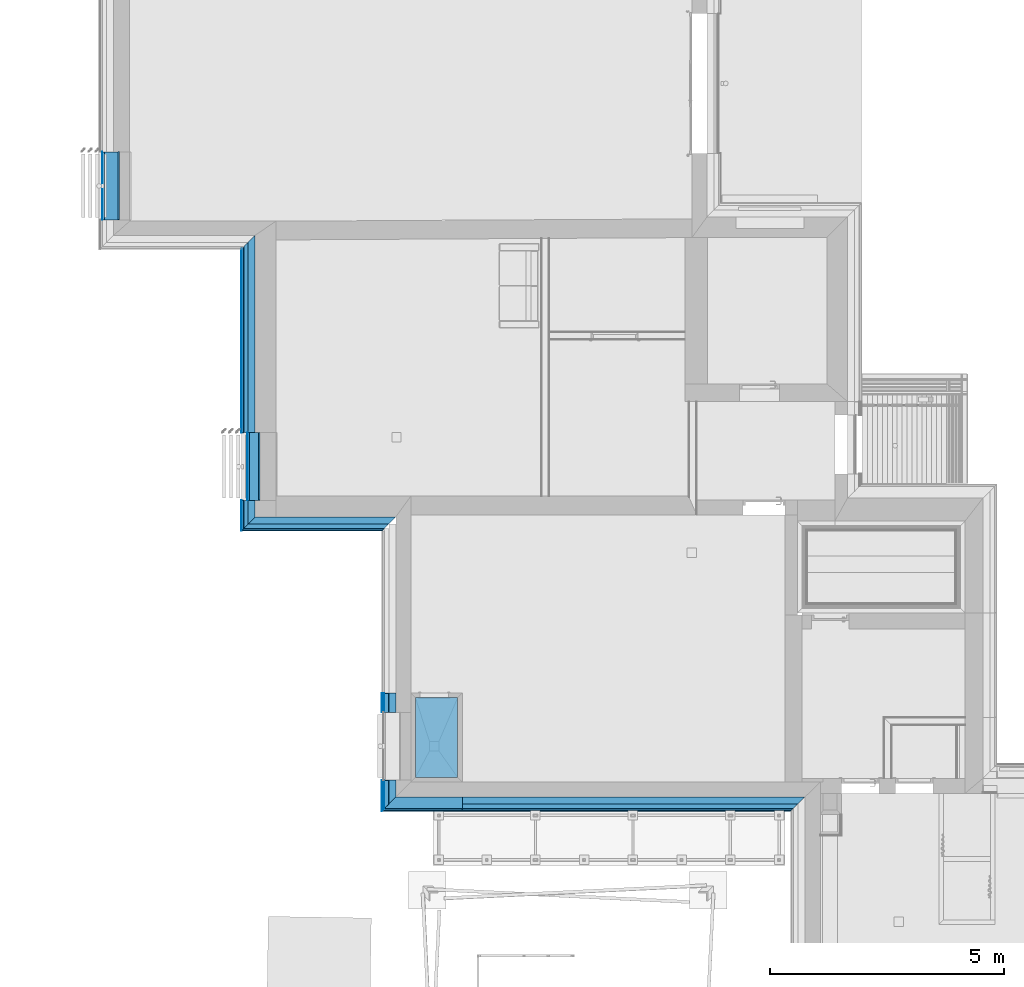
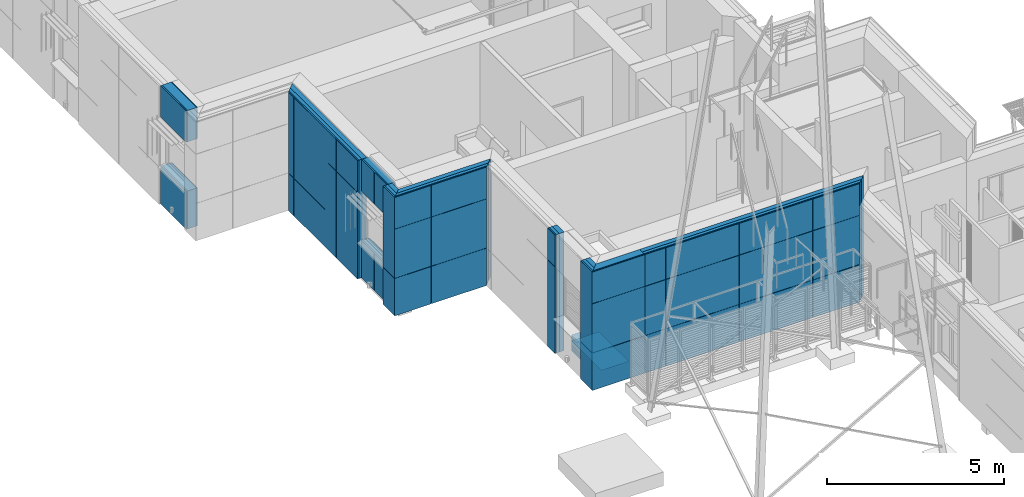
# One storey, part 32 of 418: 32 building element parts, 29 openings, 8 elements without a shape of their own.
"""IFC2X3 building model written with IfcOpenShell, lengths in millimetres."""

from ifc_helpers import new_model, entity, si_unit, converted_unit, derived_unit, money_unit, direction, frame, origin_with_axes, origin_2d_with_axis, place, context, subcontext, project, spatial, polyline, rectangle, outline, extrude, material, type_object, element, aggregate, save


model = new_model("IFC2X3")

# Units and contexts
model_context = context("Model", 3, precision=0.01, world=origin_with_axes(), true_north=direction((0.0, 1.0)))
body_context = subcontext(model_context, "Body", "Model", "MODEL_VIEW")
ifc_project = project(units=[si_unit("LENGTHUNIT", "METRE", prefix="MILLI"), si_unit("AREAUNIT", "SQUARE_METRE"), si_unit("VOLUMEUNIT", "CUBIC_METRE"), converted_unit("PLANEANGLEUNIT", "DEGREE", entity("IfcPlaneAngleMeasure", 0.0174532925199), si_unit("PLANEANGLEUNIT", "RADIAN"), dimensions=[0, 0, 0, 0, 0, 0, 0]), si_unit("SOLIDANGLEUNIT", "STERADIAN"), money_unit("EUR"), converted_unit("TIMEUNIT", "Year", entity("IfcTimeMeasure", 31556926.0), si_unit("TIMEUNIT", "SECOND"), dimensions=[0, 0, 1, 0, 0, 0, 0]), si_unit("MASSUNIT", "GRAM", prefix="KILO"), si_unit("THERMODYNAMICTEMPERATUREUNIT", "DEGREE_CELSIUS"), si_unit("LUMINOUSINTENSITYUNIT", "LUMEN"), si_unit("ENERGYUNIT", "JOULE", prefix="MEGA"), derived_unit("THERMALCONDUCTANCEUNIT", [(si_unit("POWERUNIT", "WATT"), 1), (si_unit("LENGTHUNIT", "METRE"), -1), (si_unit("THERMODYNAMICTEMPERATUREUNIT", "KELVIN"), -1)]), derived_unit("SPECIFICHEATCAPACITYUNIT", [(si_unit("ENERGYUNIT", "JOULE"), 1), (si_unit("MASSUNIT", "GRAM", prefix="KILO"), -1), (si_unit("THERMODYNAMICTEMPERATUREUNIT", "KELVIN"), -1)]), derived_unit("MASSDENSITYUNIT", [(si_unit("MASSUNIT", "GRAM", prefix="KILO"), 1), (si_unit("VOLUMEUNIT", "CUBIC_METRE"), -1)])], contexts=[model_context])

# Site, building, storey
site_placement = place(None, origin_with_axes())
site = spatial("IfcSite", under=ifc_project, at=site_placement, Name="Paldiski mnt 245/1, Tallinn, Harjumaa", CompositionType="COMPLEX")
building_placement = place(site_placement, origin_with_axes())
building = spatial("IfcBuilding", under=site, at=building_placement, Name="RKAS Hoone üldnimetus (kasutust iseloomustav) -> IFC Project Manager -> SOLIBRI", CompositionType="ELEMENT")
storey_placement = place(building_placement, origin_with_axes())
storey = spatial("IfcBuildingStorey", under=building, at=storey_placement, Name="Esimene korrus", CompositionType="ELEMENT", Elevation=0.0)

# Wall, openings, building element parts
wall_type_1 = type_object("IfcWallType", Name="VS-05D_uued_kihid 370", PredefinedType="NOTDEFINED")
wall_1_placement = place(storey_placement, frame((-62610.0, 13579.8287244, 0.0), z_axis=(0.0, 0.0, 1.0), x_axis=(0.0, -1.0, 0.0)))
wall_1 = element("IfcWall", 1, at=wall_1_placement, inside=storey, type_object=wall_type_1, Name="VS-05")
opening_1_placement = place(wall_1_placement, frame((725.0, 0.0, 1310.0), z_axis=(0.0, 0.0, 1.0), x_axis=(1.0, 0.0, 0.0)))
element("IfcOpeningElement", 2, at=opening_1_placement, cuts=wall_1, Name="A-06", context=body_context, shape_type="SweptSolid", body=[
    extrude(rectangle(XDim=1450.0, YDim=1700.0, at=origin_2d_with_axis()), frame((0.0, -220.0, 850.0), z_axis=(0.0, 1.0, 0.0), x_axis=(-1.0, 0.0, 0.0)), (0.0, 0.0, 1.0), 590.0),
    extrude(rectangle(XDim=1450.0, YDim=1700.0, at=origin_2d_with_axis()), frame((0.0, -220.0, 850.0), z_axis=(0.0, -1.0, 0.0), x_axis=(-1.0, 0.0, 0.0)), (0.0, 0.0, 1.0), 520.0),
    extrude(rectangle(XDim=1450.0, YDim=1700.0, at=origin_2d_with_axis()), frame((0.0, 0.0, 850.0), z_axis=(0.0, 1.0, 0.0), x_axis=(-1.0, 0.0, 0.0)), (0.0, 0.0, 1.0), 520.0),
])
opening_2_placement = place(wall_1_placement, frame((725.0, 0.0, 0.0), z_axis=(0.0, 0.0, 1.0), x_axis=(1.0, 0.0, 0.0)))
element("IfcOpeningElement", 3, at=opening_2_placement, cuts=wall_1, Name="Cembrit fassaadiplaadi vuuk", context=body_context, shape_type="SweptSolid", body=[
    extrude(outline(polyline([(-4.00000000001, 0.0), (3.99999999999, 0.0), (3.99999999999, 4090.0), (-4.00000000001, 4090.0), (-4.00000000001, 0.0)])), frame((0.0, -362.0, 0.0), z_axis=(0.0, -1.0, 0.0), x_axis=(1.0, 0.0, 0.0)), (0.0, 0.0, 1.0), 378.0),
])
ifc_material_1 = material(Name="Cembrit_C060")
building_element_part_1_placement = place(wall_1_placement, origin_with_axes())
building_element_part_1 = element("IfcBuildingElementPart", 4, at=building_element_part_1_placement, material=ifc_material_1, Name="Cembrit_C060", context=body_context, shape_type="SweptSolid", body=[
    extrude(outline(polyline([(0.0, -370.0), (1450.0, -370.0), (1450.0, -362.0), (0.0, -362.0), (0.0, -370.0)])), origin_with_axes(), (0.0, 0.0, 1.0), 4090.0),
])
ifc_material_2 = material(Name="VKR-06_Õhkvahe")
building_element_part_2_placement = place(wall_1_placement, origin_with_axes())
building_element_part_2 = element("IfcBuildingElementPart", 5, at=building_element_part_2_placement, material=ifc_material_2, Name="VKR-06_Õhkvahe", context=body_context, shape_type="SweptSolid", body=[
    extrude(outline(polyline([(0.0, -362.0), (1450.0, -362.0), (1450.0, -320.0), (0.0, -320.0), (0.0, -362.0)])), origin_with_axes(), (0.0, 0.0, 1.0), 4090.0),
])
ifc_material_3 = material(Name="Kingspan Kooltherm")
building_element_part_3_placement = place(wall_1_placement, origin_with_axes())
building_element_part_3 = element("IfcBuildingElementPart", 6, at=building_element_part_3_placement, material=ifc_material_3, Name="Kingspan Kooltherm", context=body_context, shape_type="SweptSolid", body=[
    extrude(outline(polyline([(0.0, -320.0), (1450.0, -320.0), (1450.0, -20.0), (0.0, -20.0), (0.0, -320.0)])), origin_with_axes(), (0.0, 0.0, 1.0), 4090.0),
])
ifc_material_4 = material(Name="Tasanduskrohv")
building_element_part_4_placement = place(wall_1_placement, origin_with_axes())
building_element_part_4 = element("IfcBuildingElementPart", 7, at=building_element_part_4_placement, material=ifc_material_4, Name="Tasanduskrohv", context=body_context, shape_type="SweptSolid", body=[
    extrude(outline(polyline([(0.0, -20.0), (1450.0, -20.0), (1450.0, 0.0), (0.0, 0.0), (0.0, -20.0)])), origin_with_axes(), (0.0, 0.0, 1.0), 4090.0),
])
aggregate(wall_1, [building_element_part_1, building_element_part_2, building_element_part_3, building_element_part_4])

wall_type_2 = type_object("IfcWallType", Name="VS-05B_uued_kihid 270", PredefinedType="NOTDEFINED")
wall_2_placement = place(storey_placement, frame((-59610.9999232, 7590.01138104, 0.0), z_axis=(0.0, 0.0, 1.0), x_axis=(0.0, -1.0, 0.0)))
wall_2 = element("IfcWall", 8, at=wall_2_placement, inside=storey, type_object=wall_type_2, Name="VS-05")
opening_3_placement = place(wall_2_placement, frame((725.0, 0.0, 1290.0), z_axis=(0.0, 0.0, 1.0), x_axis=(1.0, 0.0, 0.0)))
element("IfcOpeningElement", 9, at=opening_3_placement, cuts=wall_2, Name="A-06", context=body_context, shape_type="SweptSolid", body=[
    extrude(rectangle(XDim=1450.0, YDim=1700.0, at=origin_2d_with_axis()), frame((0.0, -185.0, 850.0), z_axis=(0.0, 1.0, 0.0), x_axis=(-1.0, 0.0, 0.0)), (0.0, 0.0, 1.0), 455.0),
    extrude(rectangle(XDim=1450.0, YDim=1700.0, at=origin_2d_with_axis()), frame((0.0, -185.0, 850.0), z_axis=(0.0, -1.0, 0.0), x_axis=(-1.0, 0.0, 0.0)), (0.0, 0.0, 1.0), 355.0),
    extrude(rectangle(XDim=1450.0, YDim=1700.0, at=origin_2d_with_axis()), frame((0.0, 0.0, 850.0), z_axis=(0.0, 1.0, 0.0), x_axis=(-1.0, 0.0, 0.0)), (0.0, 0.0, 1.0), 355.0),
    extrude(rectangle(XDim=1450.0, YDim=1708.0, at=origin_2d_with_axis()), frame((0.0, -270.0, 846.0), z_axis=(0.0, -1.0, 0.0), x_axis=(-1.0, 0.0, 0.0)), (0.0, 0.0, 1.0), 355.0),
])
opening_4_placement = place(wall_2_placement, frame((725.0, 0.0, 0.0), z_axis=(0.0, 0.0, 1.0), x_axis=(1.0, 0.0, 0.0)))
element("IfcOpeningElement", 10, at=opening_4_placement, cuts=wall_2, Name="Cembrit fassaadiplaadi vuuk", context=body_context, shape_type="SweptSolid", body=[
    extrude(outline(polyline([(-4.0, 0.0), (4.0, 0.0), (4.0, 4090.0), (-4.0, 4090.0), (-4.0, 0.0)])), frame((0.0, -262.0, 0.0), z_axis=(0.0, -1.0, 0.0), x_axis=(1.0, 0.0, 0.0)), (0.0, 0.0, 1.0), 278.0),
])
building_element_part_5_placement = place(wall_2_placement, origin_with_axes())
building_element_part_5 = element("IfcBuildingElementPart", 11, at=building_element_part_5_placement, material=ifc_material_1, Name="Cembrit_C060", context=body_context, shape_type="SweptSolid", body=[
    extrude(outline(polyline([(0.0, -270.0), (1450.0, -270.0), (1450.0, -262.0), (0.0, -262.0), (0.0, -270.0)])), origin_with_axes(), (0.0, 0.0, 1.0), 4090.0),
])
building_element_part_6_placement = place(wall_2_placement, origin_with_axes())
building_element_part_6 = element("IfcBuildingElementPart", 12, at=building_element_part_6_placement, material=ifc_material_2, Name="VKR-06_Õhkvahe", context=body_context, shape_type="SweptSolid", body=[
    extrude(outline(polyline([(0.0, -262.0), (1450.0, -262.0), (1450.0, -220.0), (0.0, -220.0), (0.0, -262.0)])), origin_with_axes(), (0.0, 0.0, 1.0), 4090.0),
])
building_element_part_7_placement = place(wall_2_placement, origin_with_axes())
building_element_part_7 = element("IfcBuildingElementPart", 13, at=building_element_part_7_placement, material=ifc_material_3, Name="Kingspan Kooltherm", context=body_context, shape_type="SweptSolid", body=[
    extrude(outline(polyline([(0.0, -220.0), (1450.0, -220.0), (1450.0, -20.0), (0.0, -20.0), (0.0, -220.0)])), origin_with_axes(), (0.0, 0.0, 1.0), 4090.0),
])
building_element_part_8_placement = place(wall_2_placement, origin_with_axes())
building_element_part_8 = element("IfcBuildingElementPart", 14, at=building_element_part_8_placement, material=ifc_material_4, Name="Tasanduskrohv", context=body_context, shape_type="SweptSolid", body=[
    extrude(outline(polyline([(0.0, -20.0), (1450.0, -20.0), (1450.0, 0.0), (0.0, 0.0), (0.0, -20.0)])), origin_with_axes(), (0.0, 0.0, 1.0), 4090.0),
])
aggregate(wall_2, [building_element_part_5, building_element_part_6, building_element_part_7, building_element_part_8])

wall_type_3 = type_object("IfcWallType", Name="VS-03F_uued_kihid 300", PredefinedType="NOTDEFINED")
wall_3_placement = place(storey_placement, frame((-59710.0, 11799.8287244, 0.0), z_axis=(0.0, 0.0, 1.0), x_axis=(0.0, -1.0, 0.0)))
wall_3 = element("IfcWall", 15, at=wall_3_placement, inside=storey, type_object=wall_type_3, Name="VS-03")
opening_5_placement = place(wall_3_placement, frame((4934.81730972, 0.0, 0.0), z_axis=(0.0, 0.0, 1.0), x_axis=(1.0, 0.0, 0.0)))
element("IfcOpeningElement", 16, at=opening_5_placement, cuts=wall_3, Name="Cembrit fassaadiplaadi vuuk", context=body_context, shape_type="SweptSolid", body=[
    extrude(outline(polyline([(-725.000033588, 0.0), (725.000033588, 0.0), (725.000033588, 4090.0), (-725.000033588, 4090.0), (-725.000033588, 0.0)])), frame((0.0, 0.0, 0.0), z_axis=(0.0, -1.0, 0.0), x_axis=(1.0, 0.0, 0.0)), (0.0, 0.0, 1.0), 600.0),
])
opening_6_placement = place(wall_3_placement, frame((3009.81734331, 0.0, 0.0), z_axis=(0.0, 0.0, 1.0), x_axis=(1.0, 0.0, 0.0)))
element("IfcOpeningElement", 17, at=opening_6_placement, cuts=wall_3, Name="Cembrit fassaadiplaadi vuuk", context=body_context, shape_type="SweptSolid", body=[
    extrude(outline(polyline([(-3.99999999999, 0.0), (4.00000000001, 0.0), (4.00000000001, 4090.0), (-3.99999999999, 4090.0), (-3.99999999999, 0.0)])), frame((0.0, -292.0, 0.0), z_axis=(0.0, 1.0, 0.0), x_axis=(-1.0, 0.0, 0.0)), (0.0, 0.0, -1.0), 308.0),
])
opening_7_placement = place(wall_3_placement, frame((1809.81734331, 0.0, 0.0), z_axis=(0.0, 0.0, 1.0), x_axis=(1.0, 0.0, 0.0)))
element("IfcOpeningElement", 18, at=opening_7_placement, cuts=wall_3, Name="Cembrit fassaadiplaadi vuuk", context=body_context, shape_type="SweptSolid", body=[
    extrude(outline(polyline([(-3.99999999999, 0.0), (4.00000000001, 0.0), (4.00000000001, 4090.0), (-3.99999999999, 4090.0), (-3.99999999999, 0.0)])), frame((0.0, -292.0, 0.0), z_axis=(0.0, 1.0, 0.0), x_axis=(-1.0, 0.0, 0.0)), (0.0, 0.0, -1.0), 308.0),
])
opening_8_placement = place(wall_3_placement, frame((609.81734331, 0.0, 0.0), z_axis=(0.0, 0.0, 1.0), x_axis=(1.0, 0.0, 0.0)))
element("IfcOpeningElement", 19, at=opening_8_placement, cuts=wall_3, Name="Cembrit fassaadiplaadi vuuk", context=body_context, shape_type="SweptSolid", body=[
    extrude(outline(polyline([(-3.99999999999, 0.0), (4.00000000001, 0.0), (4.00000000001, 4090.0), (-3.99999999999, 4090.0), (-3.99999999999, 0.0)])), frame((0.0, -292.0, 0.0), z_axis=(0.0, 1.0, 0.0), x_axis=(-1.0, 0.0, 0.0)), (0.0, 0.0, -1.0), 308.0),
])
opening_9_placement = place(wall_3_placement, frame((3300.91435648, 0.0, 2990.0), z_axis=(0.0, 0.0, 1.0), x_axis=(1.0, 0.0, 0.0)))
element("IfcOpeningElement", 20, at=opening_9_placement, cuts=wall_3, Name="Cembrit fassaadiplaadi vuuk", context=body_context, shape_type="SweptSolid", body=[
    extrude(outline(polyline([(-3008.91435648, 0.0), (3008.91435648, 0.0), (3008.91435648, 8.0), (-3008.91435648, 8.0), (-3008.91435648, 0.0)])), frame((0.0, -292.0, 0.0), z_axis=(0.0, 1.0, 0.0), x_axis=(-1.0, 0.0, 0.0)), (0.0, 0.0, -1.0), 308.0),
])
opening_10_placement = place(wall_3_placement, frame((3300.91434772, 0.0, 1290.0), z_axis=(0.0, 0.0, 1.0), x_axis=(1.0, 0.0, 0.0)))
element("IfcOpeningElement", 21, at=opening_10_placement, cuts=wall_3, Name="Cembrit fassaadiplaadi vuuk", context=body_context, shape_type="SweptSolid", body=[
    extrude(outline(polyline([(-3008.91434772, 0.0), (3008.91434772, 0.0), (3008.91434772, 8.0), (-3008.91434772, 8.0), (-3008.91434772, 0.0)])), frame((0.0, -292.0, 0.0), z_axis=(0.0, 1.0, 0.0), x_axis=(-1.0, 0.0, 0.0)), (0.0, 0.0, -1.0), 308.0),
])
opening_11_placement = place(wall_3_placement, frame((11799.8287244, 59710.0, 0.0), z_axis=(0.0, 0.0, 1.0), x_axis=(0.0, 1.0, 0.0)))
element("IfcOpeningElement", 22, at=opening_11_placement, cuts=wall_3, Name="AVA", ObjectType="OPENING", context=body_context, shape_type="SweptSolid", body=[
    extrude(rectangle(XDim=1450.0, YDim=4110.0001049, at=origin_2d_with_axis()), frame((-59710.0, 6865.01138105, 2034.99994755), z_axis=(-1.0, 0.0, 0.0), x_axis=(0.0, -1.0, 0.0)), (0.0, 0.0, 1.0), 600.0),
])
ifc_material_5 = material(Name="Cembrit_C020")
building_element_part_9_placement = place(wall_3_placement, origin_with_axes())
building_element_part_9 = element("IfcBuildingElementPart", 23, at=building_element_part_9_placement, material=ifc_material_5, Name="Cembrit_C020", context=body_context, shape_type="SweptSolid", body=[
    extrude(outline(polyline([(300.0, -300.0), (6309.82872435, -300.0), (6301.82872435, -292.0), (292.0, -292.0), (300.0, -300.0)])), origin_with_axes(), (0.0, 0.0, 1.0), 4090.0),
])
building_element_part_10_placement = place(wall_3_placement, origin_with_axes())
building_element_part_10 = element("IfcBuildingElementPart", 24, at=building_element_part_10_placement, material=ifc_material_2, Name="VKR-06_Õhkvahe", context=body_context, shape_type="SweptSolid", body=[
    extrude(outline(polyline([(292.0, -292.0), (6301.82872435, -292.0), (6259.82872435, -250.0), (250.0, -250.0), (292.0, -292.0)])), origin_with_axes(), (0.0, 0.0, 1.0), 4090.0),
])
building_element_part_11_placement = place(wall_3_placement, origin_with_axes())
building_element_part_11 = element("IfcBuildingElementPart", 25, at=building_element_part_11_placement, material=ifc_material_3, Name="Kingspan Kooltherm", context=body_context, shape_type="SweptSolid", body=[
    extrude(outline(polyline([(250.0, -250.0), (6259.82872435, -250.0), (6159.82872435, -150.0), (150.0, -150.0), (250.0, -250.0)])), origin_with_axes(), (0.0, 0.0, 1.0), 4090.0),
])
building_element_part_12_placement = place(wall_3_placement, origin_with_axes())
building_element_part_12 = element("IfcBuildingElementPart", 26, at=building_element_part_12_placement, material=ifc_material_3, Name="Kingspan Kooltherm", context=body_context, shape_type="SweptSolid", body=[
    extrude(outline(polyline([(150.0, -150.0), (6159.82872435, -150.0), (6009.82872435, 0.0), (0.0, 0.0), (150.0, -150.0)])), origin_with_axes(), (0.0, 0.0, 1.0), 4090.0),
])
aggregate(wall_3, [building_element_part_9, building_element_part_10, building_element_part_11, building_element_part_12])

wall_type_4 = type_object("IfcWallType", Name="VS-08_uued_kihid 300", PredefinedType="NOTDEFINED")
wall_4_placement = place(storey_placement, frame((-55289.9571763, -189.999963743, 0.0), z_axis=(0.0, 0.0, 1.0), x_axis=(-1.0, 0.0, 0.0)))
wall_4 = element("IfcWall", 27, at=wall_4_placement, inside=storey, type_object=wall_type_4, Name="VS-08")
opening_12_placement = place(wall_4_placement, frame((516.000015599, 0.0, 0.0), z_axis=(0.0, 0.0, 1.0), x_axis=(1.0, 0.0, 0.0)))
element("IfcOpeningElement", 28, at=opening_12_placement, cuts=wall_4, Name="Cembrit fassaadiplaadi vuuk", context=body_context, shape_type="SweptSolid", body=[
    extrude(outline(polyline([(-4.0, 0.0), (4.0, 0.0), (4.0, 4090.0), (-4.0, 4090.0), (-4.0, 0.0)])), frame((0.0, 292.0, 0.0), z_axis=(0.0, 1.0, 0.0), x_axis=(-1.0, 0.0, 0.0)), (0.0, 0.0, 1.0), 308.0),
])
opening_13_placement = place(wall_4_placement, frame((-2663.99998053, 0.0, 2990.0), z_axis=(0.0, 0.0, 1.0), x_axis=(1.0, 0.0, 0.0)))
element("IfcOpeningElement", 29, at=opening_13_placement, cuts=wall_4, Name="Cembrit fassaadiplaadi vuuk", context=body_context, shape_type="SweptSolid", body=[
    extrude(outline(polyline([(-4383.99999613, 0.0), (4383.99999613, 0.0), (4383.99999613, 8.0), (-4383.99999613, 8.0), (-4383.99999613, 0.0)])), frame((0.0, 292.0, 0.0), z_axis=(0.0, 1.0, 0.0), x_axis=(-1.0, 0.0, 0.0)), (0.0, 0.0, 1.0), 308.0),
])
opening_14_placement = place(wall_4_placement, frame((-2663.99998053, 0.0, 1290.0), z_axis=(0.0, 0.0, 1.0), x_axis=(1.0, 0.0, 0.0)))
element("IfcOpeningElement", 30, at=opening_14_placement, cuts=wall_4, Name="Cembrit fassaadiplaadi vuuk", context=body_context, shape_type="SweptSolid", body=[
    extrude(outline(polyline([(-4383.99999613, 0.0), (4383.99999613, 0.0), (4383.99999613, 8.0), (-4383.99999613, 8.0), (-4383.99999613, 0.0)])), frame((0.0, 292.0, 0.0), z_axis=(0.0, 1.0, 0.0), x_axis=(-1.0, 0.0, 0.0)), (0.0, 0.0, 1.0), 308.0),
])
ifc_material_6 = material(Name="Cembrit_C040")
building_element_part_13_placement = place(wall_4_placement, origin_with_axes())
building_element_part_13 = element("IfcBuildingElementPart", 31, at=building_element_part_13_placement, material=ifc_material_6, Name="Cembrit_C040", context=body_context, shape_type="SweptSolid", body=[
    extrude(outline(polyline([(0.0, 292.0), (1712.04282372, 292.0), (1720.04282372, 300.0), (0.0, 300.0), (0.0, 292.0)])), origin_with_axes(), (0.0, 0.0, 1.0), 4090.0),
])
building_element_part_14_placement = place(wall_4_placement, origin_with_axes())
building_element_part_14 = element("IfcBuildingElementPart", 32, at=building_element_part_14_placement, material=ifc_material_2, Name="VKR-06_Õhkvahe", context=body_context, shape_type="SweptSolid", body=[
    extrude(outline(polyline([(0.0, 250.0), (1670.04282372, 250.0), (1712.04282372, 292.0), (0.0, 292.0), (0.0, 250.0)])), origin_with_axes(), (0.0, 0.0, 1.0), 4090.0),
])
building_element_part_15_placement = place(wall_4_placement, origin_with_axes())
building_element_part_15 = element("IfcBuildingElementPart", 33, at=building_element_part_15_placement, material=ifc_material_3, Name="Kingspan Kooltherm", context=body_context, shape_type="SweptSolid", body=[
    extrude(outline(polyline([(0.0, 0.0), (1420.04282372, 0.0), (1670.04282372, 250.0), (0.0, 250.0), (0.0, 0.0)])), origin_with_axes(), (0.0, 0.0, 1.0), 4090.0),
])
aggregate(wall_4, [building_element_part_13, building_element_part_14, building_element_part_15])

# Slab, building element parts
slab_type = type_object("IfcSlabType", Name="AP-02 551", PredefinedType="NOTDEFINED")
slab_placement = place(storey_placement, frame((-56290.0, 230.000000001, 201.0), z_axis=(0.0, 0.0, 1.0), x_axis=(1.0, 0.0, 0.0)))
slab = element("IfcSlab", 34, at=slab_placement, inside=storey, type_object=slab_type, Name="AP-02", PredefinedType="NOTDEFINED")
ifc_material_7 = material(Name="EPS 200")
building_element_part_16_placement = place(slab_placement, origin_with_axes())
building_element_part_16 = element("IfcBuildingElementPart", 35, at=building_element_part_16_placement, material=ifc_material_7, Name="EPS 200", context=body_context, shape_type="SweptSolid", body=[
    extrude(outline(polyline([(0.0, 0.0), (900.000023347, 0.0), (900.000023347, 1699.99992126), (0.0, 1699.99992126), (0.0, 0.0)])), frame((0.0, 0.0, -551.0), z_axis=(0.0, 0.0, 1.0), x_axis=(1.0, 0.0, 0.0)), (0.0, 0.0, 1.0), 100.0),
])
building_element_part_17_placement = place(slab_placement, origin_with_axes())
building_element_part_17 = element("IfcBuildingElementPart", 36, at=building_element_part_17_placement, material=ifc_material_7, Name="EPS 200", context=body_context, shape_type="SweptSolid", body=[
    extrude(outline(polyline([(0.0, 0.0), (900.000023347, 0.0), (900.000023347, 1699.99992126), (0.0, 1699.99992126), (0.0, 0.0)])), frame((0.0, 0.0, -451.0), z_axis=(0.0, 0.0, 1.0), x_axis=(1.0, 0.0, 0.0)), (0.0, 0.0, 1.0), 100.0),
])
ifc_material_8 = material(Name="Kiudbetoon")
building_element_part_18_placement = place(slab_placement, origin_with_axes())
building_element_part_18 = element("IfcBuildingElementPart", 37, at=building_element_part_18_placement, material=ifc_material_8, Name="Kiudbetoon", context=body_context, shape_type="SweptSolid", body=[
    extrude(outline(polyline([(0.0, 0.0), (900.000023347, 0.0), (900.000023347, 1699.99992126), (0.0, 1699.99992126), (0.0, 0.0)])), frame((0.0, 0.0, -351.0), z_axis=(0.0, 0.0, 1.0), x_axis=(1.0, 0.0, 0.0)), (0.0, 0.0, 1.0), 150.0),
])
ifc_material_9 = material(Name="Aurutõke SBS")
building_element_part_19_placement = place(slab_placement, origin_with_axes())
building_element_part_19 = element("IfcBuildingElementPart", 38, at=building_element_part_19_placement, material=ifc_material_9, Name="Aurutõke SBS", context=body_context, shape_type="SweptSolid", body=[
    extrude(outline(polyline([(0.0, 0.0), (900.000023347, 0.0), (900.000023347, 1699.99992126), (0.0, 1699.99992126), (0.0, 0.0)])), frame((0.0, 0.0, -201.0), z_axis=(0.0, 0.0, 1.0), x_axis=(1.0, 0.0, 0.0)), (0.0, 0.0, 1.0), 1.0),
])
ifc_material_10 = material(Name="EPS 60 Silver")
building_element_part_20_placement = place(slab_placement, origin_with_axes())
building_element_part_20 = element("IfcBuildingElementPart", 39, at=building_element_part_20_placement, material=ifc_material_10, Name="EPS 60 Silver", context=body_context, shape_type="SweptSolid", body=[
    extrude(outline(polyline([(0.0, 0.0), (900.000023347, 0.0), (900.000023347, 1699.99992126), (0.0, 1699.99992126), (0.0, 0.0)])), frame((0.0, 0.0, -200.0), z_axis=(0.0, 0.0, 1.0), x_axis=(1.0, 0.0, 0.0)), (0.0, 0.0, 1.0), 200.0),
])
aggregate(slab, [building_element_part_16, building_element_part_17, building_element_part_18, building_element_part_19, building_element_part_20])

# Wall, openings, building element parts
wall_type_5 = type_object("IfcWallType", Name="VS-03D_uued_kihid 300", PredefinedType="NOTDEFINED")
wall_5_placement = place(storey_placement, frame((-56710.0, -189.999963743, 0.0), z_axis=(0.0, 0.0, 1.0), x_axis=(0.0, 1.0, 0.0)))
wall_5 = element("IfcWall", 40, at=wall_5_placement, inside=storey, type_object=wall_type_5, Name="VS-08")
opening_15_placement = place(wall_5_placement, frame((2693.9999546, 0.0, 1290.0), z_axis=(0.0, 0.0, 1.0), x_axis=(1.0, 0.0, 0.0)))
element("IfcOpeningElement", 41, at=opening_15_placement, cuts=wall_5, Name="Cembrit fassaadiplaadi vuuk", context=body_context, shape_type="SweptSolid", body=[
    extrude(outline(polyline([(-2993.99999086, 0.0), (2993.99999086, 0.0), (2993.99999086, 8.0), (-2993.99999086, 8.0), (-2993.99999086, 0.0)])), frame((0.0, 292.0, 0.0), z_axis=(0.0, 1.0, 0.0), x_axis=(-1.0, 0.0, 0.0)), (0.0, 0.0, 1.0), 308.0),
])
opening_16_placement = place(wall_5_placement, frame((2693.9999546, 0.0, 2990.0), z_axis=(0.0, 0.0, 1.0), x_axis=(1.0, 0.0, 0.0)))
element("IfcOpeningElement", 42, at=opening_16_placement, cuts=wall_5, Name="Cembrit fassaadiplaadi vuuk", context=body_context, shape_type="SweptSolid", body=[
    extrude(outline(polyline([(-2993.99999086, 0.0), (2993.99999086, 0.0), (2993.99999086, 8.0), (-2993.99999086, 8.0), (-2993.99999086, 0.0)])), frame((0.0, 292.0, 0.0), z_axis=(0.0, 1.0, 0.0), x_axis=(-1.0, 0.0, 0.0)), (0.0, 0.0, 1.0), 308.0),
])
opening_17_placement = place(wall_5_placement, frame((189.999963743, -56710.0, 0.0), z_axis=(0.0, 0.0, 1.0), x_axis=(0.0, -1.0, 0.0)))
element("IfcOpeningElement", 43, at=opening_17_placement, cuts=wall_5, Name="AVA", ObjectType="OPENING", context=body_context, shape_type="SweptSolid", body=[
    extrude(rectangle(XDim=1450.0, YDim=4110.0, at=origin_2d_with_axis()), frame((-56710.0, 895.000000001, 2035.0), z_axis=(1.0, 0.0, 0.0), x_axis=(0.0, 1.0, 0.0)), (0.0, 0.0, -1.0), 600.0),
])
building_element_part_21_placement = place(wall_5_placement, origin_with_axes())
building_element_part_21 = element("IfcBuildingElementPart", 44, at=building_element_part_21_placement, material=ifc_material_5, Name="Cembrit_C020", context=body_context, shape_type="SweptSolid", body=[
    extrude(outline(polyline([(-292.0, 292.0), (2219.999885, 292.0), (2219.999885, 300.0), (-300.0, 300.0), (-292.0, 292.0)])), origin_with_axes(), (0.0, 0.0, 1.0), 4090.0),
])
building_element_part_22_placement = place(wall_5_placement, origin_with_axes())
building_element_part_22 = element("IfcBuildingElementPart", 45, at=building_element_part_22_placement, material=ifc_material_2, Name="VKR-06_Õhkvahe", context=body_context, shape_type="SweptSolid", body=[
    extrude(outline(polyline([(-250.0, 250.0), (2219.999885, 250.0), (2219.999885, 292.0), (-292.0, 292.0), (-250.0, 250.0)])), origin_with_axes(), (0.0, 0.0, 1.0), 4090.0),
])
building_element_part_23_placement = place(wall_5_placement, origin_with_axes())
building_element_part_23 = element("IfcBuildingElementPart", 46, at=building_element_part_23_placement, material=ifc_material_3, Name="Kingspan Kooltherm", context=body_context, shape_type="SweptSolid", body=[
    extrude(outline(polyline([(-150.0, 150.0), (2219.999885, 150.0), (2219.999885, 250.0), (-250.0, 250.0), (-150.0, 150.0)])), origin_with_axes(), (0.0, 0.0, 1.0), 4090.0),
])
building_element_part_24_placement = place(wall_5_placement, origin_with_axes())
building_element_part_24 = element("IfcBuildingElementPart", 47, at=building_element_part_24_placement, material=ifc_material_3, Name="Kingspan Kooltherm", context=body_context, shape_type="SweptSolid", body=[
    extrude(outline(polyline([(0.0, 0.0), (2219.999885, 0.0), (2219.999885, 150.0), (-150.0, 150.0), (0.0, 0.0)])), origin_with_axes(), (0.0, 0.0, 1.0), 4090.0),
])
aggregate(wall_5, [building_element_part_21, building_element_part_22, building_element_part_23, building_element_part_24])

wall_type_6 = type_object("IfcWallType", Name="VS-03E_uuedkihid 300", PredefinedType="NOTDEFINED")
wall_6_placement = place(storey_placement, frame((-56710.0, 5790.0, 0.0), z_axis=(0.0, 0.0, 1.0), x_axis=(-1.0, 0.0, 0.0)))
wall_6 = element("IfcWall", 48, at=wall_6_placement, inside=storey, type_object=wall_type_6, Name="VS-03")
opening_18_placement = place(wall_6_placement, frame((2102.0, 0.0, 0.0), z_axis=(0.0, 0.0, 1.0), x_axis=(1.0, 0.0, 0.0)))
element("IfcOpeningElement", 49, at=opening_18_placement, cuts=wall_6, Name="Cembrit fassaadiplaadi vuuk", context=body_context, shape_type="SweptSolid", body=[
    extrude(outline(polyline([(-4.0, 0.0), (4.0, 0.0), (4.0, 4090.0), (-4.0, 4090.0), (-4.0, 0.0)])), frame((0.0, 292.0, 0.0), z_axis=(0.0, 1.0, 0.0), x_axis=(-1.0, 0.0, 0.0)), (0.0, 0.0, 1.0), 308.0),
])
opening_19_placement = place(wall_6_placement, frame((902.0, 0.0, 0.0), z_axis=(0.0, 0.0, 1.0), x_axis=(1.0, 0.0, 0.0)))
element("IfcOpeningElement", 50, at=opening_19_placement, cuts=wall_6, Name="Cembrit fassaadiplaadi vuuk", context=body_context, shape_type="SweptSolid", body=[
    extrude(outline(polyline([(-4.0, 0.0), (4.0, 0.0), (4.0, 4090.0), (-4.0, 4090.0), (-4.0, 0.0)])), frame((0.0, 292.0, 0.0), z_axis=(0.0, 1.0, 0.0), x_axis=(-1.0, 0.0, 0.0)), (0.0, 0.0, 1.0), 308.0),
])
opening_20_placement = place(wall_6_placement, frame((1792.0, 0.0, 2990.0), z_axis=(0.0, 0.0, 1.0), x_axis=(1.0, 0.0, 0.0)))
element("IfcOpeningElement", 51, at=opening_20_placement, cuts=wall_6, Name="Cembrit fassaadiplaadi vuuk", context=body_context, shape_type="SweptSolid", body=[
    extrude(outline(polyline([(-1500.0, 0.0), (1500.0, 0.0), (1500.0, 8.0), (-1500.0, 8.0), (-1500.0, 0.0)])), frame((0.0, 292.0, 0.0), z_axis=(0.0, 1.0, 0.0), x_axis=(-1.0, 0.0, 0.0)), (0.0, 0.0, 1.0), 308.0),
])
opening_21_placement = place(wall_6_placement, frame((1796.0, 0.0, 1290.0), z_axis=(0.0, 0.0, 1.0), x_axis=(1.0, 0.0, 0.0)))
element("IfcOpeningElement", 52, at=opening_21_placement, cuts=wall_6, Name="Cembrit fassaadiplaadi vuuk", context=body_context, shape_type="SweptSolid", body=[
    extrude(outline(polyline([(-1504.0, 0.0), (1504.0, 0.0), (1504.0, 8.0), (-1504.0, 8.0), (-1504.0, 0.0)])), frame((0.0, 292.0, 0.0), z_axis=(0.0, 1.0, 0.0), x_axis=(-1.0, 0.0, 0.0)), (0.0, 0.0, 1.0), 308.0),
])
building_element_part_25_placement = place(wall_6_placement, origin_with_axes())
building_element_part_25 = element("IfcBuildingElementPart", 53, at=building_element_part_25_placement, material=ifc_material_6, Name="Cembrit_C040", context=body_context, shape_type="SweptSolid", body=[
    extrude(outline(polyline([(292.0, 292.0), (3292.0, 292.0), (3300.0, 300.0), (300.0, 300.0), (292.0, 292.0)])), origin_with_axes(), (0.0, 0.0, 1.0), 4090.0),
])
building_element_part_26_placement = place(wall_6_placement, origin_with_axes())
building_element_part_26 = element("IfcBuildingElementPart", 54, at=building_element_part_26_placement, material=ifc_material_2, Name="VKR-06_Õhkvahe", context=body_context, shape_type="SweptSolid", body=[
    extrude(outline(polyline([(250.0, 250.0), (3250.0, 250.0), (3292.0, 292.0), (292.0, 292.0), (250.0, 250.0)])), origin_with_axes(), (0.0, 0.0, 1.0), 4090.0),
])
building_element_part_27_placement = place(wall_6_placement, origin_with_axes())
building_element_part_27 = element("IfcBuildingElementPart", 55, at=building_element_part_27_placement, material=ifc_material_3, Name="Kingspan Kooltherm", context=body_context, shape_type="SweptSolid", body=[
    extrude(outline(polyline([(150.0, 150.0), (3150.0, 150.0), (3250.0, 250.0), (250.0, 250.0), (150.0, 150.0)])), origin_with_axes(), (0.0, 0.0, 1.0), 4090.0),
])
building_element_part_28_placement = place(wall_6_placement, origin_with_axes())
building_element_part_28 = element("IfcBuildingElementPart", 56, at=building_element_part_28_placement, material=ifc_material_3, Name="Kingspan Kooltherm", context=body_context, shape_type="SweptSolid", body=[
    extrude(outline(polyline([(0.0, 0.0), (3000.0, 0.0), (3150.0, 150.0), (150.0, 150.0), (0.0, 0.0)])), origin_with_axes(), (0.0, 0.0, 1.0), 4090.0),
])
aggregate(wall_6, [building_element_part_25, building_element_part_26, building_element_part_27, building_element_part_28])

wall_type_7 = type_object("IfcWallType", Name="VS-03C_uued_kihid 300", PredefinedType="NOTDEFINED")
wall_7_placement = place(storey_placement, frame((-47980.0, -189.999999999, 0.0), z_axis=(0.0, 0.0, 1.0), x_axis=(-1.0, 0.0, 0.0)))
wall_7 = element("IfcWall", 57, at=wall_7_placement, inside=storey, type_object=wall_type_7, Name="VS-03")
opening_22_placement = place(wall_7_placement, frame((6625.95648733, -1.48131507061e-10, 0.0), z_axis=(0.0, 0.0, 1.0), x_axis=(1.0, 0.0, 0.0)))
element("IfcOpeningElement", 58, at=opening_22_placement, cuts=wall_7, Name="Cembrit fassaadiplaadi vuuk", context=body_context, shape_type="SweptSolid", body=[
    extrude(outline(polyline([(-4.0, 0.0), (4.0, 0.0), (4.0, 4090.0), (-4.0, 4090.0), (-4.0, 0.0)])), frame((0.0, 292.0, 0.0), z_axis=(0.0, 1.0, 0.0), x_axis=(-1.0, 0.0, 0.0)), (0.0, 0.0, 1.0), 308.0),
])
opening_23_placement = place(wall_7_placement, frame((5425.95648733, -1.2129186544e-10, 0.0), z_axis=(0.0, 0.0, 1.0), x_axis=(1.0, 0.0, 0.0)))
element("IfcOpeningElement", 59, at=opening_23_placement, cuts=wall_7, Name="Cembrit fassaadiplaadi vuuk", context=body_context, shape_type="SweptSolid", body=[
    extrude(outline(polyline([(-4.0, 0.0), (4.0, 0.0), (4.0, 4090.0), (-4.0, 4090.0), (-4.0, 0.0)])), frame((0.0, 292.0, 0.0), z_axis=(0.0, 1.0, 0.0), x_axis=(-1.0, 0.0, 0.0)), (0.0, 0.0, 1.0), 308.0),
])
opening_24_placement = place(wall_7_placement, frame((4225.95648733, 0.0, 0.0), z_axis=(0.0, 0.0, 1.0), x_axis=(1.0, 0.0, 0.0)))
element("IfcOpeningElement", 60, at=opening_24_placement, cuts=wall_7, Name="Cembrit fassaadiplaadi vuuk", context=body_context, shape_type="SweptSolid", body=[
    extrude(outline(polyline([(-4.0, 0.0), (4.0, 0.0), (4.0, 4090.0), (-4.0, 4090.0), (-4.0, 0.0)])), frame((0.0, 292.0, 0.0), z_axis=(0.0, 1.0, 0.0), x_axis=(-1.0, 0.0, 0.0)), (0.0, 0.0, 1.0), 308.0),
])
opening_25_placement = place(wall_7_placement, frame((3025.95648733, 0.0, 0.0), z_axis=(0.0, 0.0, 1.0), x_axis=(1.0, 0.0, 0.0)))
element("IfcOpeningElement", 61, at=opening_25_placement, cuts=wall_7, Name="Cembrit fassaadiplaadi vuuk", context=body_context, shape_type="SweptSolid", body=[
    extrude(outline(polyline([(-4.0, 0.0), (4.0, 0.0), (4.0, 4090.0), (-4.0, 4090.0), (-4.0, 0.0)])), frame((0.0, 292.0, 0.0), z_axis=(0.0, 1.0, 0.0), x_axis=(-1.0, 0.0, 0.0)), (0.0, 0.0, 1.0), 308.0),
])
opening_26_placement = place(wall_7_placement, frame((1825.95648733, 0.0, 0.0), z_axis=(0.0, 0.0, 1.0), x_axis=(1.0, 0.0, 0.0)))
element("IfcOpeningElement", 62, at=opening_26_placement, cuts=wall_7, Name="Cembrit fassaadiplaadi vuuk", context=body_context, shape_type="SweptSolid", body=[
    extrude(outline(polyline([(-4.0, 0.0), (4.0, 0.0), (4.0, 4090.0), (-4.0, 4090.0), (-4.0, 0.0)])), frame((0.0, 292.0, 0.0), z_axis=(0.0, 1.0, 0.0), x_axis=(-1.0, 0.0, 0.0)), (0.0, 0.0, 1.0), 308.0),
])
opening_27_placement = place(wall_7_placement, frame((625.956487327, 0.0, 0.0), z_axis=(0.0, 0.0, 1.0), x_axis=(1.0, 0.0, 0.0)))
element("IfcOpeningElement", 63, at=opening_27_placement, cuts=wall_7, Name="Cembrit fassaadiplaadi vuuk", context=body_context, shape_type="SweptSolid", body=[
    extrude(outline(polyline([(-4.0, 0.0), (4.0, 0.0), (4.0, 4090.0), (-4.0, 4090.0), (-4.0, 0.0)])), frame((0.0, 292.0, 0.0), z_axis=(0.0, 1.0, 0.0), x_axis=(-1.0, 0.0, 0.0)), (0.0, 0.0, 1.0), 308.0),
])
opening_28_placement = place(wall_7_placement, frame((4660.97824366, -1.04194430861e-10, 2990.0), z_axis=(0.0, 0.0, 1.0), x_axis=(1.0, 0.0, 0.0)))
element("IfcOpeningElement", 64, at=opening_28_placement, cuts=wall_7, Name="Cembrit fassaadiplaadi vuuk", context=body_context, shape_type="SweptSolid", body=[
    extrude(outline(polyline([(-4368.97824366, 0.0), (4368.97824366, 0.0), (4368.97824366, 8.0), (-4368.97824366, 8.0), (-4368.97824366, 0.0)])), frame((0.0, 292.0, 0.0), z_axis=(0.0, 1.0, 0.0), x_axis=(-1.0, 0.0, 0.0)), (0.0, 0.0, 1.0), 308.0),
])
opening_29_placement = place(wall_7_placement, frame((4660.97824366, -1.04194430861e-10, 1290.0), z_axis=(0.0, 0.0, 1.0), x_axis=(1.0, 0.0, 0.0)))
element("IfcOpeningElement", 65, at=opening_29_placement, cuts=wall_7, Name="Cembrit fassaadiplaadi vuuk", context=body_context, shape_type="SweptSolid", body=[
    extrude(outline(polyline([(-4368.97824366, 0.0), (4368.97824366, 0.0), (4368.97824366, 8.0), (-4368.97824366, 8.0), (-4368.97824366, 0.0)])), frame((0.0, 292.0, 0.0), z_axis=(0.0, 1.0, 0.0), x_axis=(-1.0, 0.0, 0.0)), (0.0, 0.0, 1.0), 308.0),
])
building_element_part_29_placement = place(wall_7_placement, origin_with_axes())
building_element_part_29 = element("IfcBuildingElementPart", 66, at=building_element_part_29_placement, material=ifc_material_6, Name="Cembrit_C040", context=body_context, shape_type="SweptSolid", body=[
    extrude(outline(polyline([(292.0, 292.0), (7309.95647173, 292.0), (7309.95647173, 300.0), (300.0, 300.0), (292.0, 292.0)])), origin_with_axes(), (0.0, 0.0, 1.0), 4090.0),
])
building_element_part_30_placement = place(wall_7_placement, origin_with_axes())
building_element_part_30 = element("IfcBuildingElementPart", 67, at=building_element_part_30_placement, material=ifc_material_2, Name="VKR-06_Õhkvahe", context=body_context, shape_type="SweptSolid", body=[
    extrude(outline(polyline([(250.0, 250.0), (7309.95647173, 250.0), (7309.95647173, 292.0), (292.0, 292.0), (250.0, 250.0)])), origin_with_axes(), (0.0, 0.0, 1.0), 4090.0),
])
building_element_part_31_placement = place(wall_7_placement, origin_with_axes())
building_element_part_31 = element("IfcBuildingElementPart", 68, at=building_element_part_31_placement, material=ifc_material_3, Name="Kingspan Kooltherm", context=body_context, shape_type="SweptSolid", body=[
    extrude(outline(polyline([(150.0, 150.0), (7309.95647173, 150.0), (7309.95647173, 250.0), (250.0, 250.0), (150.0, 150.0)])), origin_with_axes(), (0.0, 0.0, 1.0), 4090.0),
])
building_element_part_32_placement = place(wall_7_placement, origin_with_axes())
building_element_part_32 = element("IfcBuildingElementPart", 69, at=building_element_part_32_placement, material=ifc_material_3, Name="Kingspan Kooltherm", context=body_context, shape_type="SweptSolid", body=[
    extrude(outline(polyline([(0.0, 0.0), (7309.95647173, 0.0), (7309.95647173, 150.0), (150.0, 150.0), (0.0, 0.0)])), origin_with_axes(), (0.0, 0.0, 1.0), 4090.0),
])
aggregate(wall_7, [building_element_part_29, building_element_part_30, building_element_part_31, building_element_part_32])

save(model, "model.ifc")
